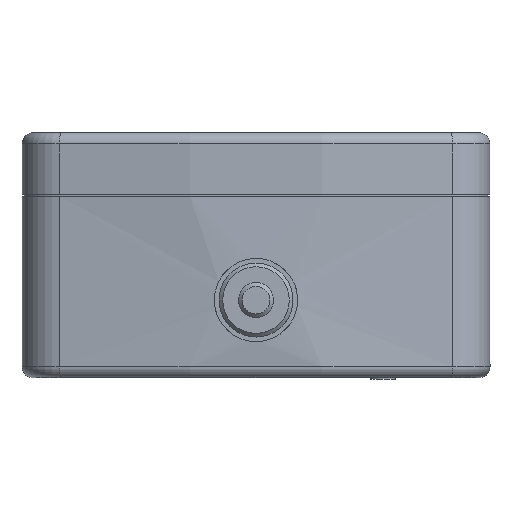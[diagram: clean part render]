
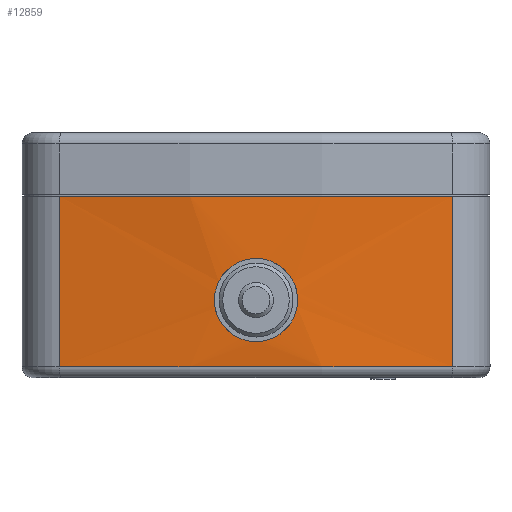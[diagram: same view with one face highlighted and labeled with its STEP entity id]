
A CAD part, front view. The second image highlights one B-rep face of the part: STEP entity #12859.
In plain terms, the highlighted cylindrical face has radius 139.7 mm (diameter 279.4 mm), a partial arc.
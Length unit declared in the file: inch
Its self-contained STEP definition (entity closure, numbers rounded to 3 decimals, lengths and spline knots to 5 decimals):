
#43=B_SPLINE_CURVE_WITH_KNOTS('',3,(#22162,#22163,#22164,#22165,#22166,
#22167,#22168,#22169,#22170,#22171,#22172,#22173,#22174,#22175,#22176,#22177,
#22178,#22179),.UNSPECIFIED.,.F.,.F.,(4,2,2,2,2,2,2,2,4),(0.,0.08476,
0.16953,0.25429,0.33906,0.42382,
0.50859,0.59335,0.67812),.UNSPECIFIED.);
#44=B_SPLINE_CURVE_WITH_KNOTS('',3,(#22180,#22181,#22182,#22183,#22184,
#22185,#22186,#22187,#22188,#22189,#22190,#22191,#22192,#22193,#22194,#22195,
#22196,#22197),.UNSPECIFIED.,.F.,.F.,(4,2,2,2,2,2,2,2,4),(0.67812,
0.76288,0.84765,0.93241,1.01718,
1.10194,1.18671,1.27147,1.35623),
 .UNSPECIFIED.);
#1199=LINE('',#22217,#2308);
#1200=LINE('',#22219,#2309);
#2308=VECTOR('',#18287,1.);
#2309=VECTOR('',#18290,1.);
#2597=CYLINDRICAL_SURFACE('',#14306,5.5);
#2687=FACE_BOUND('',#4265,.T.);
#3431=FACE_OUTER_BOUND('',#4264,.T.);
#4264=EDGE_LOOP('',(#11424,#11425,#11426,#11427));
#4265=EDGE_LOOP('',(#11428,#11429));
#5001=CIRCLE('',#14307,5.5);
#5002=CIRCLE('',#14308,5.5);
#6192=VERTEX_POINT('',#22159);
#6193=VERTEX_POINT('',#22161);
#6194=VERTEX_POINT('',#22199);
#6199=VERTEX_POINT('',#22213);
#6200=VERTEX_POINT('',#22214);
#6201=VERTEX_POINT('',#22216);
#8005=EDGE_CURVE('',#6193,#6192,#43,.T.);
#8006=EDGE_CURVE('',#6192,#6193,#44,.T.);
#8014=EDGE_CURVE('',#6199,#6200,#5001,.T.);
#8015=EDGE_CURVE('',#6201,#6200,#1199,.T.);
#8016=EDGE_CURVE('',#6194,#6201,#5002,.T.);
#8017=EDGE_CURVE('',#6199,#6194,#1200,.T.);
#11424=ORIENTED_EDGE('',*,*,#8014,.T.);
#11425=ORIENTED_EDGE('',*,*,#8015,.F.);
#11426=ORIENTED_EDGE('',*,*,#8016,.F.);
#11427=ORIENTED_EDGE('',*,*,#8017,.F.);
#11428=ORIENTED_EDGE('',*,*,#8005,.T.);
#11429=ORIENTED_EDGE('',*,*,#8006,.T.);
#12859=ADVANCED_FACE('',(#3431,#2687),#2597,.T.);
#14306=AXIS2_PLACEMENT_3D('',#22212,#18283,#18284);
#14307=AXIS2_PLACEMENT_3D('',#22215,#18285,#18286);
#14308=AXIS2_PLACEMENT_3D('',#22218,#18288,#18289);
#18283=DIRECTION('center_axis',(0.,0.,
1.));
#18284=DIRECTION('ref_axis',(1.,0.,0.));
#18285=DIRECTION('center_axis',(0.,0.,-1.));
#18286=DIRECTION('ref_axis',(1.,0.,0.));
#18287=DIRECTION('',(0.,0.,1.));
#18288=DIRECTION('center_axis',(0.,0.,
-1.));
#18289=DIRECTION('ref_axis',(0.,-1.,0.));
#18290=DIRECTION('',(0.,0.,-1.));
#22159=CARTESIAN_POINT('',(3.16134,30.69672,6.58002));
#22161=CARTESIAN_POINT('',(3.61134,30.69672,6.58002));
#22162=CARTESIAN_POINT('Ctrl Pts',(3.61134,30.69672,6.58002));
#22163=CARTESIAN_POINT('Ctrl Pts',(3.61134,30.69672,6.55176));
#22164=CARTESIAN_POINT('Ctrl Pts',(3.6057,30.69648,6.52162));
#22165=CARTESIAN_POINT('Ctrl Pts',(3.58273,30.69561,6.46619));
#22166=CARTESIAN_POINT('Ctrl Pts',(3.56542,30.695,6.44089));
#22167=CARTESIAN_POINT('Ctrl Pts',(3.52547,30.69384,6.40094));
#22168=CARTESIAN_POINT('Ctrl Pts',(3.50017,30.69322,6.38363));
#22169=CARTESIAN_POINT('Ctrl Pts',(3.44473,30.69236,6.36066));
#22170=CARTESIAN_POINT('Ctrl Pts',(3.4146,30.69212,6.35502));
#22171=CARTESIAN_POINT('Ctrl Pts',(3.35809,30.69212,6.35502));
#22172=CARTESIAN_POINT('Ctrl Pts',(3.32795,30.69236,6.36066));
#22173=CARTESIAN_POINT('Ctrl Pts',(3.27252,30.69322,6.38363));
#22174=CARTESIAN_POINT('Ctrl Pts',(3.24722,30.69384,6.40094));
#22175=CARTESIAN_POINT('Ctrl Pts',(3.20727,30.695,6.44089));
#22176=CARTESIAN_POINT('Ctrl Pts',(3.18995,30.69561,6.46619));
#22177=CARTESIAN_POINT('Ctrl Pts',(3.16699,30.69648,6.52162));
#22178=CARTESIAN_POINT('Ctrl Pts',(3.16134,30.69672,6.55176));
#22179=CARTESIAN_POINT('Ctrl Pts',(3.16134,30.69672,6.58002));
#22180=CARTESIAN_POINT('Ctrl Pts',(3.16134,30.69672,6.58002));
#22181=CARTESIAN_POINT('Ctrl Pts',(3.16134,30.69672,6.60827));
#22182=CARTESIAN_POINT('Ctrl Pts',(3.16699,30.69648,6.63841));
#22183=CARTESIAN_POINT('Ctrl Pts',(3.18995,30.69561,6.69384));
#22184=CARTESIAN_POINT('Ctrl Pts',(3.20727,30.695,6.71914));
#22185=CARTESIAN_POINT('Ctrl Pts',(3.24722,30.69384,6.75909));
#22186=CARTESIAN_POINT('Ctrl Pts',(3.27252,30.69322,6.7764));
#22187=CARTESIAN_POINT('Ctrl Pts',(3.32795,30.69236,6.79937));
#22188=CARTESIAN_POINT('Ctrl Pts',(3.35809,30.69212,6.80502));
#22189=CARTESIAN_POINT('Ctrl Pts',(3.4146,30.69212,6.80502));
#22190=CARTESIAN_POINT('Ctrl Pts',(3.44473,30.69236,6.79937));
#22191=CARTESIAN_POINT('Ctrl Pts',(3.50017,30.69322,6.7764));
#22192=CARTESIAN_POINT('Ctrl Pts',(3.52547,30.69384,6.75909));
#22193=CARTESIAN_POINT('Ctrl Pts',(3.56542,30.695,6.71914));
#22194=CARTESIAN_POINT('Ctrl Pts',(3.58273,30.69561,6.69384));
#22195=CARTESIAN_POINT('Ctrl Pts',(3.6057,30.69648,6.63841));
#22196=CARTESIAN_POINT('Ctrl Pts',(3.61134,30.69672,6.60827));
#22197=CARTESIAN_POINT('Ctrl Pts',(3.61134,30.69672,6.58002));
#22199=CARTESIAN_POINT('',(4.44968,30.79588,6.22002));
#22212=CARTESIAN_POINT('Origin',(3.38634,36.19212,6.78933));
#22213=CARTESIAN_POINT('',(4.44968,30.79588,7.14002));
#22214=CARTESIAN_POINT('',(2.32301,30.79588,7.14002));
#22215=CARTESIAN_POINT('Origin',(3.38634,36.19212,7.14002));
#22216=CARTESIAN_POINT('',(2.32301,30.79588,6.22002));
#22217=CARTESIAN_POINT('',(2.32301,30.79588,6.78933));
#22218=CARTESIAN_POINT('Origin',(3.38634,36.19212,6.22002));
#22219=CARTESIAN_POINT('',(4.44968,30.79588,6.78933));
